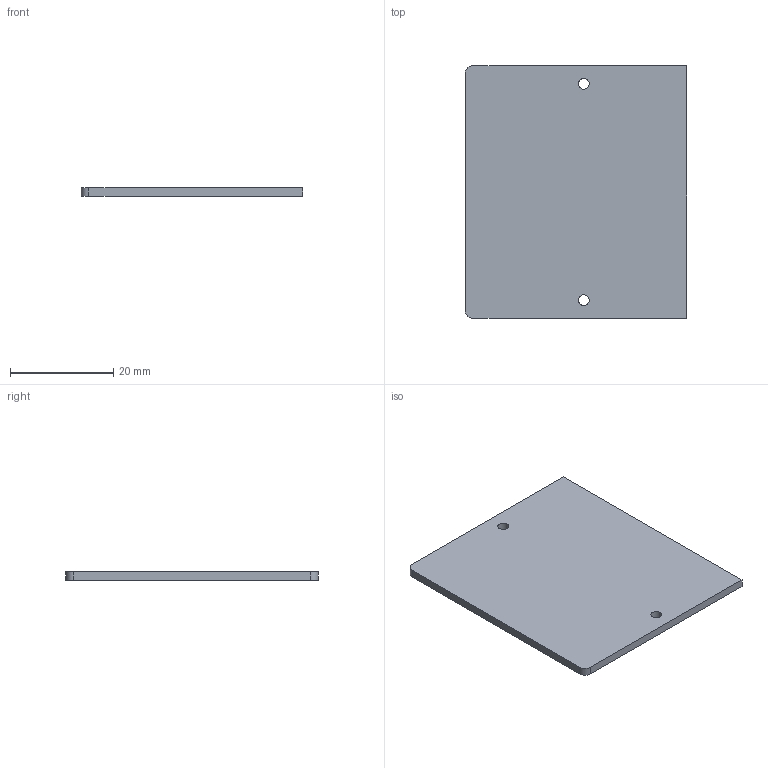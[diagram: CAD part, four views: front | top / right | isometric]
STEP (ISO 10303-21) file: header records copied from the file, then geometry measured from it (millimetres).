
FILE_DESCRIPTION(('Open CASCADE Model'),'2;1');
FILE_NAME('Open CASCADE Shape Model','2026-08-15T15:30:08',('Author'),( 'Open CASCADE'),'Open CASCADE STEP processor 7.7','Open CASCADE 7.7' ,'Unknown');
FILE_SCHEMA(('AUTOMOTIVE_DESIGN { 1 0 10303 214 1 1 1 1 }'));
Length unit declared in the file: millimetre
Products named in the file (1): Open CASCADE STEP translator 7.7 1
Bounding box: 43 x 49 x 1.6 mm (x, y, z)
Volume: 3358.6 mm3; surface area: 4511.7 mm2
Topology: 1 solids, 1 shells, 10 faces, 24 edges, 16 vertices
Faces by surface type: plane 6, cylinder 4
Full cylindrical faces by diameter (mm): 2.1 x2
Entity records: 638 total; most frequent: CARTESIAN_POINT 123, DIRECTION 98, LINE 56, VECTOR 56, ORIENTED_EDGE 48, PCURVE 48, DEFINITIONAL_REPRESENTATION 48, EDGE_CURVE 24
